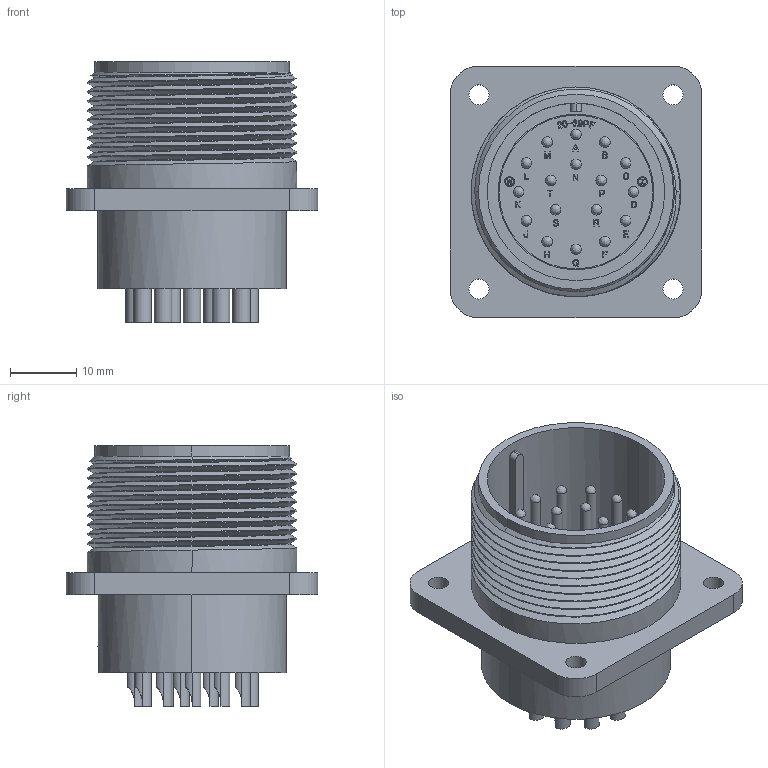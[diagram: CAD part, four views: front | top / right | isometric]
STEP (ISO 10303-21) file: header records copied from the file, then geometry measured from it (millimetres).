
FILE_DESCRIPTION (( 'STEP AP203' ), '1' );
FILE_NAME ('DMS3102A20-29P.STEP', '2018-11-12T02:33:28', ( '' ), ( '' ), 'SwSTEP 2.0', 'SolidWorks 2018', '' );
FILE_SCHEMA (( 'CONFIG_CONTROL_DESIGN' ));
Length unit declared in the file: millimetre
Products named in the file (1): DMS3102A20-29P
Bounding box: 38.1 x 38.1 x 39.45 mm (x, y, z)
Volume: 15353.8 mm3; surface area: 14571.2 mm2
Topology: 1 solids, 1 shells, 1401 faces, 3827 edges, 2483 vertices
Faces by surface type: plane 635, bspline 432, cylinder 293, cone 41
Full cylindrical faces by diameter (mm): 3.05 x4
Entity records: 59391 total; most frequent: CARTESIAN_POINT 27190, ORIENTED_EDGE 7502, DIRECTION 5146, EDGE_CURVE 3751, VERTEX_POINT 2479, VECTOR 2274, LINE 2274, EDGE_LOOP 1544
